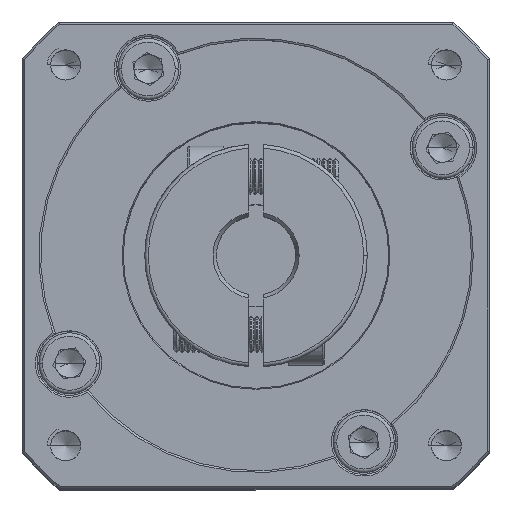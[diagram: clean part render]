
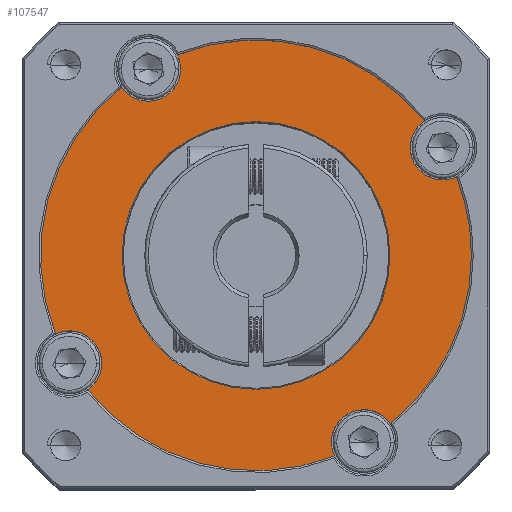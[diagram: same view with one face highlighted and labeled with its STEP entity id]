
A CAD part, top view. The second image highlights one B-rep face of the part: STEP entity #107547.
In plain terms, the highlighted planar face has unit normal (0, 0, 1).
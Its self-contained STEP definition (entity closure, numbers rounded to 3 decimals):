
#109 = CARTESIAN_POINT ( 'NONE',  ( -68.815, 23.18, -0.205 ) ) ;
#749 = AXIS2_PLACEMENT_3D ( 'NONE', #87335, #41786, #2714 ) ;
#919 = CARTESIAN_POINT ( 'NONE',  ( -42.834, 38.18, -0.205 ) ) ;
#930 = EDGE_CURVE ( 'NONE', #46784, #94013, #60221, .T. ) ;
#1323 = AXIS2_PLACEMENT_3D ( 'NONE', #919, #75001, #83959 ) ;
#1346 = EDGE_CURVE ( 'NONE', #46392, #24738, #42688, .T. ) ;
#2714 = DIRECTION ( 'NONE',  ( 1., 0., 0. ) ) ;
#2946 = VERTEX_POINT ( 'NONE', #60638 ) ;
#4224 = DIRECTION ( 'NONE',  ( 1., 0., 0. ) ) ;
#4444 = CARTESIAN_POINT ( 'NONE',  ( -24.117, 14.735, -0.205 ) ) ;
#5135 = CIRCLE ( 'NONE', #749, 30. ) ;
#5668 = CARTESIAN_POINT ( 'NONE',  ( -42.834, 38.18, -0.205 ) ) ;
#7557 = ORIENTED_EDGE ( 'NONE', *, *, #21025, .T. ) ;
#8017 = DIRECTION ( 'NONE',  ( 0., 0., 1. ) ) ;
#10114 = CARTESIAN_POINT ( 'NONE',  ( -16.853, 53.18, -0.205 ) ) ;
#10932 = CARTESIAN_POINT ( 'NONE',  ( -66.279, 19.463, -0.205 ) ) ;
#11722 = EDGE_CURVE ( 'NONE', #24738, #28830, #58859, .T. ) ;
#14751 = CIRCLE ( 'NONE', #43879, 4.5 ) ;
#14844 = EDGE_CURVE ( 'NONE', #63119, #2946, #47805, .T. ) ;
#16889 = CARTESIAN_POINT ( 'NONE',  ( -64.315, 23.18, -0.205 ) ) ;
#17991 = DIRECTION ( 'NONE',  ( 1., 0., 0. ) ) ;
#18385 = CARTESIAN_POINT ( 'NONE',  ( -27.834, 12.2, -0.205 ) ) ;
#20539 = VERTEX_POINT ( 'NONE', #39265 ) ;
#21025 = EDGE_CURVE ( 'NONE', #46392, #117929, #50587, .T. ) ;
#21293 = CARTESIAN_POINT ( 'NONE',  ( -42.834, 38.18, -0.205 ) ) ;
#21817 = CIRCLE ( 'NONE', #113234, 18.644 ) ;
#22202 = CARTESIAN_POINT ( 'NONE',  ( -21.353, 53.18, -0.205 ) ) ;
#24100 = FACE_BOUND ( 'NONE', #96341, .T. ) ;
#24689 = DIRECTION ( 'NONE',  ( 1., 0., 0. ) ) ;
#24738 = VERTEX_POINT ( 'NONE', #16889 ) ;
#25492 = CARTESIAN_POINT ( 'NONE',  ( -57.834, 64.161, -0.205 ) ) ;
#26170 = DIRECTION ( 'NONE',  ( 1., 0., 0. ) ) ;
#26829 = AXIS2_PLACEMENT_3D ( 'NONE', #21293, #31511, #4224 ) ;
#28097 = DIRECTION ( 'NONE',  ( 1., 0., 0. ) ) ;
#28824 = DIRECTION ( 'NONE',  ( 1., 0., 0. ) ) ;
#28830 = VERTEX_POINT ( 'NONE', #115398 ) ;
#29291 = AXIS2_PLACEMENT_3D ( 'NONE', #5668, #89465, #42732 ) ;
#31315 = ORIENTED_EDGE ( 'NONE', *, *, #53158, .T. ) ;
#31511 = DIRECTION ( 'NONE',  ( 0., 0., 1. ) ) ;
#31617 = ORIENTED_EDGE ( 'NONE', *, *, #1346, .F. ) ;
#31710 = CARTESIAN_POINT ( 'NONE',  ( -42.834, 38.18, -0.205 ) ) ;
#35071 = ORIENTED_EDGE ( 'NONE', *, *, #39697, .F. ) ;
#35782 = CARTESIAN_POINT ( 'NONE',  ( -57.834, 64.161, -0.205 ) ) ;
#35990 = CARTESIAN_POINT ( 'NONE',  ( -14.902, 49.125, -0.205 ) ) ;
#37838 = DIRECTION ( 'NONE',  ( 1., 0., 0. ) ) ;
#39265 = CARTESIAN_POINT ( 'NONE',  ( -12.834, 38.18, -0.205 ) ) ;
#39697 = EDGE_CURVE ( 'NONE', #120680, #84447, #48009, .T. ) ;
#40040 = CARTESIAN_POINT ( 'NONE',  ( -32.334, 12.2, -0.205 ) ) ;
#41786 = DIRECTION ( 'NONE',  ( 0., 0., 1. ) ) ;
#41837 = CARTESIAN_POINT ( 'NONE',  ( -42.834, 38.18, -0.205 ) ) ;
#42688 = CIRCLE ( 'NONE', #91851, 4.5 ) ;
#42732 = DIRECTION ( 'NONE',  ( 1., 0., 0. ) ) ;
#43320 = EDGE_CURVE ( 'NONE', #20539, #65154, #113622, .T. ) ;
#43552 = EDGE_CURVE ( 'NONE', #64983, #70703, #14751, .T. ) ;
#43879 = AXIS2_PLACEMENT_3D ( 'NONE', #25492, #90602, #24689 ) ;
#45161 = AXIS2_PLACEMENT_3D ( 'NONE', #10114, #65846, #57714 ) ;
#45518 = DIRECTION ( 'NONE',  ( 0., 0., 1. ) ) ;
#46392 = VERTEX_POINT ( 'NONE', #10932 ) ;
#46594 = ORIENTED_EDGE ( 'NONE', *, *, #43320, .T. ) ;
#46784 = VERTEX_POINT ( 'NONE', #110104 ) ;
#47805 = CIRCLE ( 'NONE', #29291, 18.644 ) ;
#48009 = CIRCLE ( 'NONE', #101087, 4.5 ) ;
#49904 = EDGE_CURVE ( 'NONE', #120680, #20539, #103707, .T. ) ;
#50587 = CIRCLE ( 'NONE', #53629, 30. ) ;
#53006 = EDGE_CURVE ( 'NONE', #94013, #65154, #56230, .T. ) ;
#53158 = EDGE_CURVE ( 'NONE', #64983, #28830, #5135, .T. ) ;
#53629 = AXIS2_PLACEMENT_3D ( 'NONE', #93533, #85769, #37838 ) ;
#53676 = DIRECTION ( 'NONE',  ( 1., 0., 0. ) ) ;
#55067 = ORIENTED_EDGE ( 'NONE', *, *, #55906, .F. ) ;
#55906 = EDGE_CURVE ( 'NONE', #84447, #117929, #96847, .T. ) ;
#56230 = CIRCLE ( 'NONE', #45161, 4.5 ) ;
#57031 = CARTESIAN_POINT ( 'NONE',  ( -16.853, 53.18, -0.205 ) ) ;
#57714 = DIRECTION ( 'NONE',  ( 1., 0., 0. ) ) ;
#57820 = AXIS2_PLACEMENT_3D ( 'NONE', #108950, #8017, #53676 ) ;
#58859 = CIRCLE ( 'NONE', #66354, 4.5 ) ;
#60221 = CIRCLE ( 'NONE', #102024, 4.5 ) ;
#60568 = EDGE_CURVE ( 'NONE', #2946, #63119, #21817, .T. ) ;
#60638 = CARTESIAN_POINT ( 'NONE',  ( -24.19, 38.18, -0.205 ) ) ;
#62649 = DIRECTION ( 'NONE',  ( 1., 0., 0. ) ) ;
#62725 = ORIENTED_EDGE ( 'NONE', *, *, #68751, .F. ) ;
#63119 = VERTEX_POINT ( 'NONE', #103257 ) ;
#64983 = VERTEX_POINT ( 'NONE', #98239 ) ;
#65154 = VERTEX_POINT ( 'NONE', #35990 ) ;
#65846 = DIRECTION ( 'NONE',  ( 0., 0., 1. ) ) ;
#66354 = AXIS2_PLACEMENT_3D ( 'NONE', #120845, #74780, #28824 ) ;
#68751 = EDGE_CURVE ( 'NONE', #70703, #85511, #111068, .T. ) ;
#69104 = DIRECTION ( 'NONE',  ( 1., 0., 0. ) ) ;
#70426 = AXIS2_PLACEMENT_3D ( 'NONE', #73372, #101430, #26170 ) ;
#70703 = VERTEX_POINT ( 'NONE', #76900 ) ;
#72172 = ORIENTED_EDGE ( 'NONE', *, *, #14844, .T. ) ;
#73350 = ORIENTED_EDGE ( 'NONE', *, *, #80007, .T. ) ;
#73372 = CARTESIAN_POINT ( 'NONE',  ( -27.834, 12.2, -0.205 ) ) ;
#74780 = DIRECTION ( 'NONE',  ( 0., 0., 1. ) ) ;
#75001 = DIRECTION ( 'NONE',  ( 0., 0., 1. ) ) ;
#76900 = CARTESIAN_POINT ( 'NONE',  ( -53.334, 64.161, -0.205 ) ) ;
#80007 = EDGE_CURVE ( 'NONE', #46784, #85511, #111441, .T. ) ;
#82344 = ORIENTED_EDGE ( 'NONE', *, *, #11722, .F. ) ;
#83167 = DIRECTION ( 'NONE',  ( 0., 0., 1. ) ) ;
#83307 = ORIENTED_EDGE ( 'NONE', *, *, #43552, .F. ) ;
#83959 = DIRECTION ( 'NONE',  ( 1., 0., 0. ) ) ;
#84447 = VERTEX_POINT ( 'NONE', #40040 ) ;
#84637 = DIRECTION ( 'NONE',  ( 0., 0., 1. ) ) ;
#85511 = VERTEX_POINT ( 'NONE', #99340 ) ;
#85769 = DIRECTION ( 'NONE',  ( 0., 0., 1. ) ) ;
#87335 = CARTESIAN_POINT ( 'NONE',  ( -42.834, 38.18, -0.205 ) ) ;
#87886 = ORIENTED_EDGE ( 'NONE', *, *, #60568, .T. ) ;
#89465 = DIRECTION ( 'NONE',  ( 0., 0., -1. ) ) ;
#90602 = DIRECTION ( 'NONE',  ( 0., 0., 1. ) ) ;
#91424 = AXIS2_PLACEMENT_3D ( 'NONE', #31710, #106159, #69104 ) ;
#91851 = AXIS2_PLACEMENT_3D ( 'NONE', #109, #120627, #110016 ) ;
#93533 = CARTESIAN_POINT ( 'NONE',  ( -42.834, 38.18, -0.205 ) ) ;
#94013 = VERTEX_POINT ( 'NONE', #22202 ) ;
#94646 = CARTESIAN_POINT ( 'NONE',  ( -31.889, 10.248, -0.205 ) ) ;
#96341 = EDGE_LOOP ( 'NONE', ( #87886, #72172 ) ) ;
#96847 = CIRCLE ( 'NONE', #70426, 4.5 ) ;
#98035 = FACE_OUTER_BOUND ( 'NONE', #112486, .T. ) ;
#98239 = CARTESIAN_POINT ( 'NONE',  ( -61.551, 61.625, -0.205 ) ) ;
#99340 = CARTESIAN_POINT ( 'NONE',  ( -53.779, 66.112, -0.205 ) ) ;
#101087 = AXIS2_PLACEMENT_3D ( 'NONE', #18385, #83167, #17991 ) ;
#101430 = DIRECTION ( 'NONE',  ( 0., 0., 1. ) ) ;
#101475 = PLANE ( 'NONE',  #1323 ) ;
#102024 = AXIS2_PLACEMENT_3D ( 'NONE', #57031, #84637, #28097 ) ;
#103257 = CARTESIAN_POINT ( 'NONE',  ( -61.478, 38.18, -0.205 ) ) ;
#103707 = CIRCLE ( 'NONE', #26829, 30. ) ;
#105737 = DIRECTION ( 'NONE',  ( 0., 0., -1. ) ) ;
#106159 = DIRECTION ( 'NONE',  ( 0., 0., 1. ) ) ;
#107547 = ADVANCED_FACE ( 'NONE', ( #24100, #98035 ), #101475, .T. ) ;
#108950 = CARTESIAN_POINT ( 'NONE',  ( -42.834, 38.18, -0.205 ) ) ;
#110016 = DIRECTION ( 'NONE',  ( 1., 0., 0. ) ) ;
#110104 = CARTESIAN_POINT ( 'NONE',  ( -19.389, 56.898, -0.205 ) ) ;
#111068 = CIRCLE ( 'NONE', #117127, 4.5 ) ;
#111441 = CIRCLE ( 'NONE', #57820, 30. ) ;
#112312 = ORIENTED_EDGE ( 'NONE', *, *, #930, .F. ) ;
#112486 = EDGE_LOOP ( 'NONE', ( #31617, #7557, #55067, #35071, #118599, #46594, #115133, #112312, #73350, #62725, #83307, #31315, #82344 ) ) ;
#113234 = AXIS2_PLACEMENT_3D ( 'NONE', #41837, #105737, #117330 ) ;
#113622 = CIRCLE ( 'NONE', #91424, 30. ) ;
#115133 = ORIENTED_EDGE ( 'NONE', *, *, #53006, .F. ) ;
#115398 = CARTESIAN_POINT ( 'NONE',  ( -70.766, 27.235, -0.205 ) ) ;
#117127 = AXIS2_PLACEMENT_3D ( 'NONE', #35782, #45518, #62649 ) ;
#117330 = DIRECTION ( 'NONE',  ( 1., 0., 0. ) ) ;
#117929 = VERTEX_POINT ( 'NONE', #94646 ) ;
#118599 = ORIENTED_EDGE ( 'NONE', *, *, #49904, .T. ) ;
#120627 = DIRECTION ( 'NONE',  ( 0., 0., 1. ) ) ;
#120680 = VERTEX_POINT ( 'NONE', #4444 ) ;
#120845 = CARTESIAN_POINT ( 'NONE',  ( -68.815, 23.18, -0.205 ) ) ;
